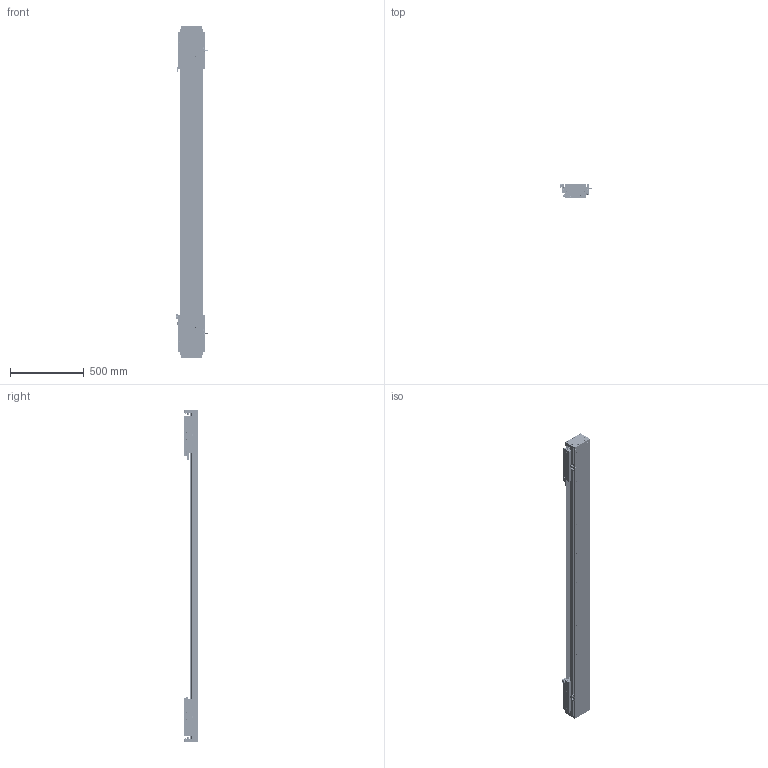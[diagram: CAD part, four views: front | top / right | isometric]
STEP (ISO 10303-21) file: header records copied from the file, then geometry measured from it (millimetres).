
FILE_DESCRIPTION (( 'STEP AP203' ), '1' );
FILE_NAME ('DA-C145-2-C3-T1640-C010-0.2 眻盄萇儂.STEP', '2025-08-13T10:22:00', ( '' ), ( '' ), 'SwSTEP 2.0', 'SolidWorks 2019', '' );
FILE_SCHEMA (( 'CONFIG_CONTROL_DESIGN' ));
Length unit declared in the file: millimetre
Products named in the file (38): 复件 半圆头内六角螺钉 M3×6^CU145-W 滚珠滑台; 葩璃 XD-U-02L 棠掑喜^DA-C145-2-C3-T-C010-0.2; 复件 DA145-C3-YB-A-00 压板A^CU145-W 滚珠滑台; 复件 DA145-DG 钢带端盖^复件 CU145 钢带组件_DA-C145-2-C3-T-C010-0.2; 复件 纯铜油杯 6x6mm^CU145-W 滚珠滑台; 66245-CU145-HT-W-00 賑雄怢啣(3D芞祧)(00); DA-C145-2-C3-T1640-C010-0.2 眻盄萇儂; 葩璃 鞠褒情蹟譫 M3^DA-C145-2-C3-T-C010-0.2; CU145-W-00 珨极趙賑雄怢啣-1; 葩璃 PM-T45^DA-C145-2-C3-T-C010-0.2; 葩璃 DA145-C3-DP-B-00 菜えB^CU145-W 幗紩賑怢; CU145-W-00 珨极趙賑雄怢啣; 复件 DA145-GYP-00 光电感应片^DA-C145-2-C3-T-C010-0.2; 复件 DA95-HK-GT-00 滑块钢轨^CU145-W-00 一体化滑动台板; TAY01-M8; IU-CU145-L 菁釱絳寢; 葩璃 CU145 詩湍郪璃^DA-C145-2-C3-T-C010-0.2; DKW-KGZ-ZJ-00 中间光电开关支架; 葩璃 DA95-HXJ-00 遣喳砎蝶^DA-C145-2-C3-T-C010-0.2; 葩璃 CKMA01-W060-TRL^DA-C145-2-C3-T-C010-0.2; 葩璃 DA145-C3-DP-A-00 菜えA^CU145-W 幗紩賑怢; DKW168-HXJ-ZJ-00 笢潔滅袉砎蝶; DKW-GYP-ZJ-00 笢潔嫖萇覜茼え; 复件 DA95-MFP-01 密封片^CU145-W 滚珠滑台; 复件 DA145-C3-YB-B-00 压板B^CU145-W 滚珠滑台; 复件 DA146 钢带拉块^复件 CU145 钢带组件_DA-C145-2-C3-T-C010-0.2; 复件 DA95-DB-00  挡板^CU145-W 滚珠滑台; 复件 DA145 钢带^复件 CU145 钢带组件_DA-C145-2-C3-T-C010-0.2; IU-CU145-L-00 菁釱(L2220); 复件 DA145-C3-DK-00 挡块^CU145-W 滚珠滑台; 复件 DA146 钢带垫块^复件 CU145 钢带组件_DA-C145-2-C3-T-C010-0.2; CU145-W 幗紩賑怢; CU145-W 幗紩賑怢-1; 葩璃 CKM03-W060-C1C2-TP-0.2^DA-C145-2-C3-T-C010-0.2; 葩璃 DA95-GT-T-00^IU-CU145-L 菁釱絳寢; 葩璃 DMA-010-0.2 黍杅芛^DA-C145-2-C3-T-C010-0.2; 复件 内六角平端紧定螺钉 GB.T77-2000 M5×10^CU145-W 滚珠滑台; 葩璃 PM-Y65^DA-C145-2-C3-T-C010-0.2
Assembly tree (180 placements, depth 4):
  DA-C145-2-C3-T1640-C010-0.2 眻盄萇儂
    IU-CU145-L 菁釱絳寢
      IU-CU145-L-00 菁釱(L2220)
      葩璃 DA95-GT-T-00^IU-CU145-L 菁釱絳寢  x4
    葩璃 CU145 詩湍郪璃^DA-C145-2-C3-T-C010-0.2
      复件 DA145-DG 钢带端盖^复件 CU145 钢带组件_DA-C145-2-C3-T-C010-0.2  x2
      复件 DA146 钢带拉块^复件 CU145 钢带组件_DA-C145-2-C3-T-C010-0.2  x2
      复件 DA146 钢带垫块^复件 CU145 钢带组件_DA-C145-2-C3-T-C010-0.2  x2
      复件 DA145 钢带^复件 CU145 钢带组件_DA-C145-2-C3-T-C010-0.2
    CU145-W 幗紩賑怢
      CU145-W-00 珨极趙賑雄怢啣
        66245-CU145-HT-W-00 賑雄怢啣(3D芞祧)(00)
        复件 DA95-HK-GT-00 滑块钢轨^CU145-W-00 一体化滑动台板  x8
      复件 DA95-MFP-01 密封片^CU145-W 滚珠滑台  x8
      复件 DA95-DB-00  挡板^CU145-W 滚珠滑台  x8
      复件 内六角平端紧定螺钉 GB.T77-2000 M5×10^CU145-W 滚珠滑台  x4
      复件 纯铜油杯 6x6mm^CU145-W 滚珠滑台  x4
      复件 半圆头内六角螺钉 M3×6^CU145-W 滚珠滑台  x16
      复件 DA145-C3-DK-00 挡块^CU145-W 滚珠滑台  x4
      葩璃 DA145-C3-DP-B-00 菜えB^CU145-W 幗紩賑怢  x2
      复件 DA145-C3-YB-B-00 压板B^CU145-W 滚珠滑台  x2
      葩璃 DA145-C3-DP-A-00 菜えA^CU145-W 幗紩賑怢  x3
      复件 DA145-C3-YB-A-00 压板A^CU145-W 滚珠滑台  x3
      TAY01-M8  x4
    CU145-W 幗紩賑怢-1
      CU145-W-00 珨极趙賑雄怢啣-1
        66245-CU145-HT-W-00 賑雄怢啣(3D芞祧)(00)
        复件 DA95-HK-GT-00 滑块钢轨^CU145-W-00 一体化滑动台板  x8
      复件 DA95-MFP-01 密封片^CU145-W 滚珠滑台  x8
      复件 DA95-DB-00  挡板^CU145-W 滚珠滑台  x8
      复件 内六角平端紧定螺钉 GB.T77-2000 M5×10^CU145-W 滚珠滑台  x4
      复件 纯铜油杯 6x6mm^CU145-W 滚珠滑台  x4
      复件 半圆头内六角螺钉 M3×6^CU145-W 滚珠滑台  x16
      复件 DA145-C3-DK-00 挡块^CU145-W 滚珠滑台  x4
      葩璃 DA145-C3-DP-B-00 菜えB^CU145-W 幗紩賑怢  x2
      复件 DA145-C3-YB-B-00 压板B^CU145-W 滚珠滑台  x2
      葩璃 DA145-C3-DP-A-00 菜えA^CU145-W 幗紩賑怢  x3
      复件 DA145-C3-YB-A-00 压板A^CU145-W 滚珠滑台  x3
      TAY01-M8  x4
    葩璃 CKMA01-W060-TRL^DA-C145-2-C3-T-C010-0.2
    葩璃 PM-T45^DA-C145-2-C3-T-C010-0.2  x4
    葩璃 XD-U-02L 棠掑喜^DA-C145-2-C3-T-C010-0.2
    葩璃 DA95-HXJ-00 遣喳砎蝶^DA-C145-2-C3-T-C010-0.2  x4
    葩璃 CKM03-W060-C1C2-TP-0.2^DA-C145-2-C3-T-C010-0.2  x2
    葩璃 DMA-010-0.2 黍杅芛^DA-C145-2-C3-T-C010-0.2  x2
    复件 DA145-GYP-00 光电感应片^DA-C145-2-C3-T-C010-0.2  x2
    DKW-GYP-ZJ-00 笢潔嫖萇覜茼え
    DKW-KGZ-ZJ-00 中间光电开关支架
    葩璃 PM-Y65^DA-C145-2-C3-T-C010-0.2
    葩璃 鞠褒情蹟譫 M3^DA-C145-2-C3-T-C010-0.2  x8
    DKW168-HXJ-ZJ-00 笢潔滅袉砎蝶
Bounding box: 213.7 x 108.45 x 2256 mm (x, y, z)
Volume: 12858787.9 mm3; surface area: 3997052 mm2
Topology: 175 solids, 239 shells, 7432 faces, 19911 edges, 12293 vertices
Faces by surface type: cylinder 3147, plane 2945, cone 1184, torus 140, sphere 8, bspline 8
Entity records: 132174 total; most frequent: CARTESIAN_POINT 36860, ORIENTED_EDGE 18508, DIRECTION 17903, EDGE_CURVE 9254, AXIS2_PLACEMENT_3D 6571, VERTEX_POINT 5992, LINE 4761, VECTOR 4761
